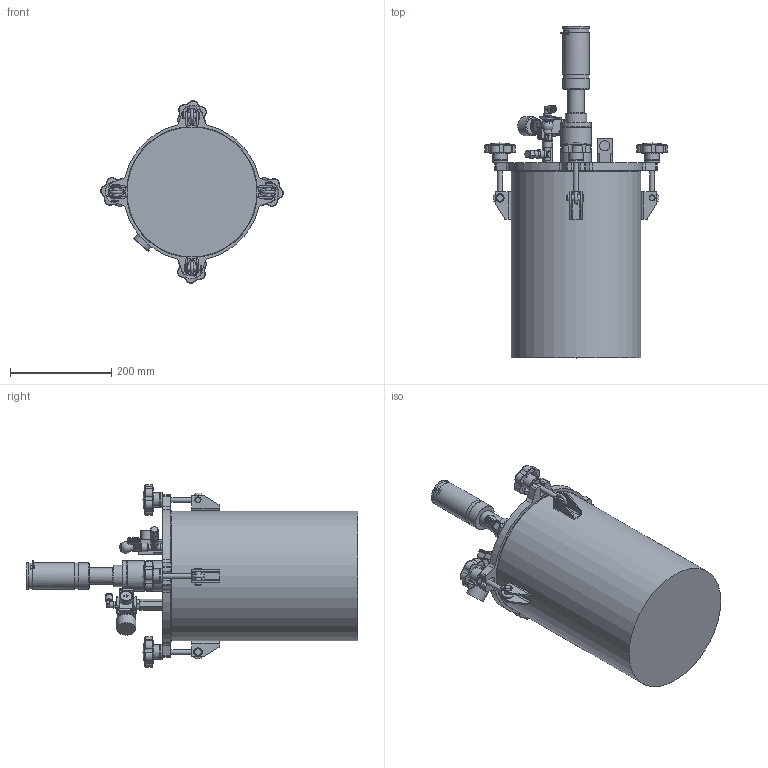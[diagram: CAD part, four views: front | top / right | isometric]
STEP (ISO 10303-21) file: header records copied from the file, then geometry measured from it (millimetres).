
FILE_DESCRIPTION (( 'STEP AP214' ), '1' );
FILE_NAME ('PT16LLS-STIR.STEP', '2024-10-11T14:37:38', ( '' ), ( '' ), 'SwSTEP 2.0', 'SolidWorks 2024', '' );
FILE_SCHEMA (( 'AUTOMOTIVE_DESIGN' ));
Length unit declared in the file: millimetre
Products named in the file (1): PT16LLS-STIR
Bounding box: 359.7 x 654.5 x 359.7 mm (x, y, z)
Volume: 20931164.8 mm3; surface area: 739467.6 mm2
Topology: 6 solids, 6 shells, 1222 faces, 3165 edges, 2012 vertices
Faces by surface type: plane 546, cylinder 325, bspline 206, cone 95, torus 46, sphere 4
Full cylindrical faces by diameter (mm): 2 x2, 5 x4, 5.6 x4, 8.15 x2, 8.566 x1, 9 x4, 9.4 x1, 10 x5, 10.2 x1, 11 x1, 12 x14, 12.5 x1, 12.6 x2, 13.5 x1, 13.8 x1, 14 x2, 14.5 x1, 16 x1, 16.5 x1, 17 x6, 18.8 x1, 20 x1, 22 x2, 24.5 x1, 26.5 x1, 27 x1, 28 x6, 30 x4, 33 x1, 37.5 x1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
Entity records: 74980 total; most frequent: CARTESIAN_POINT 48675, ORIENTED_EDGE 5776, DIRECTION 4538, EDGE_CURVE 2888, VERTEX_POINT 1911, AXIS2_PLACEMENT_3D 1623, EDGE_LOOP 1471, FACE_OUTER_BOUND 1312
